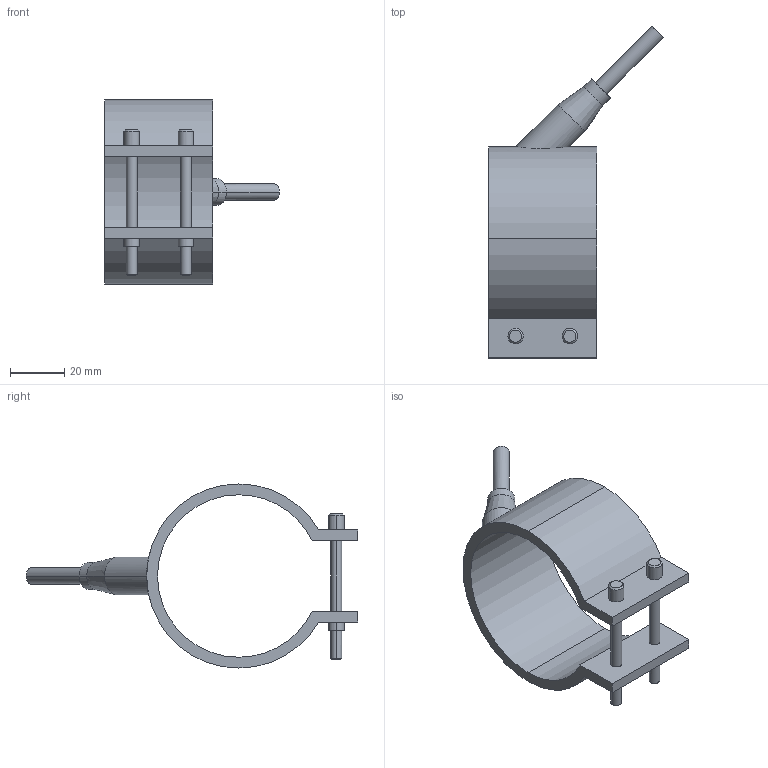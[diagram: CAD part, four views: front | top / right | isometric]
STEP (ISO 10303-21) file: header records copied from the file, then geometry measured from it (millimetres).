
FILE_DESCRIPTION(('CATIA V5 STEP Exchange'),'2;1');
FILE_NAME('C:\Users\Utente\Desktop\IO LAVORO\3D X SITO CF\X SITO\PLASTICA\RF1\29060040.stp','2021-03-27T09:53:38+00:00',('none'),('none'),'CATIA Version 5 Release 20 GA (IN-10)','CATIA V5 STEP AP203','none');
FILE_SCHEMA(('CONFIG_CONTROL_DESIGN'));
Length unit declared in the file: millimetre
Products named in the file (1): 29060040
Bounding box: 64.55 x 122.55 x 68 mm (x, y, z)
Volume: 38388.2 mm3; surface area: 20877.6 mm2
Topology: 1 solids, 1 shells, 54 faces, 126 edges, 82 vertices
Faces by surface type: cylinder 28, plane 16, cone 10
Entity records: 1756 total; most frequent: CARTESIAN_POINT 511, ORIENTED_EDGE 252, DIRECTION 212, EDGE_CURVE 126, AXIS2_PLACEMENT_3D 105, VERTEX_POINT 82, EDGE_LOOP 66, VECTOR 56
